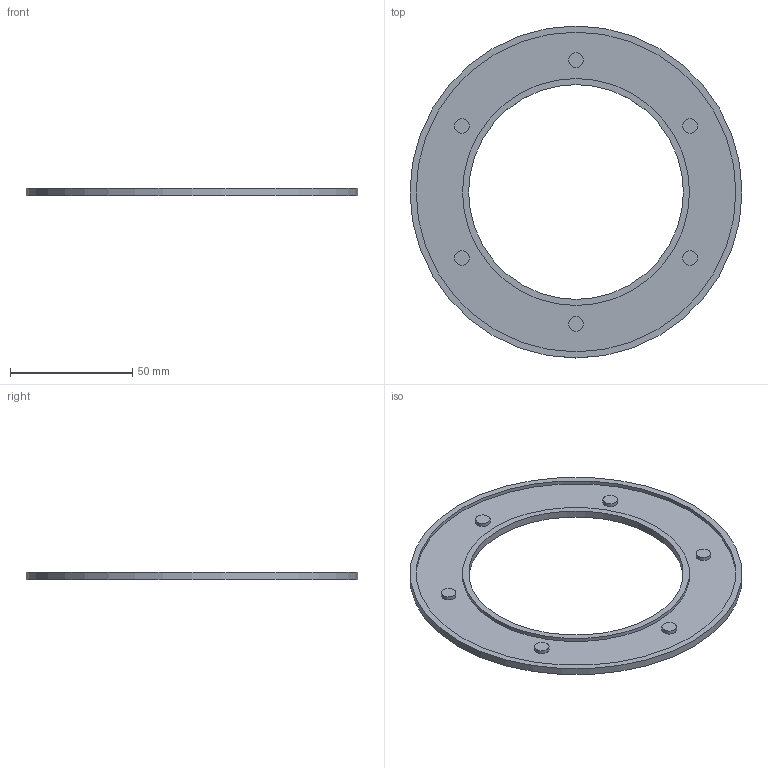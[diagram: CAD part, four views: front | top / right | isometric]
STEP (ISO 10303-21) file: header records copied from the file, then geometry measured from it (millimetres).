
FILE_DESCRIPTION(('FreeCAD Model'),'2;1');
FILE_NAME('Open CASCADE Shape Model','2023-08-03T19:16:13',(''),(''), 'Open CASCADE STEP processor 7.6','FreeCAD','Unknown');
FILE_SCHEMA(('AUTOMOTIVE_DESIGN { 1 0 10303 214 1 1 1 1 }'));
Length unit declared in the file: millimetre
Products named in the file (1): GussformUnten
Bounding box: 136 x 136 x 3 mm (x, y, z)
Volume: 15560.3 mm3; surface area: 20225.6 mm2
Topology: 1 solids, 1 shells, 20 faces, 30 edges, 20 vertices
Faces by surface type: cylinder 10, plane 10
Full cylindrical faces by diameter (mm): 6 x6, 88 x1, 93 x1, 131 x1, 136 x1
Entity records: 482 total; most frequent: DIRECTION 92, CARTESIAN_POINT 71, ORIENTED_EDGE 60, AXIS2_PLACEMENT_3D 41, FACE_BOUND 30, EDGE_LOOP 30, EDGE_CURVE 30, ADVANCED_FACE 20
